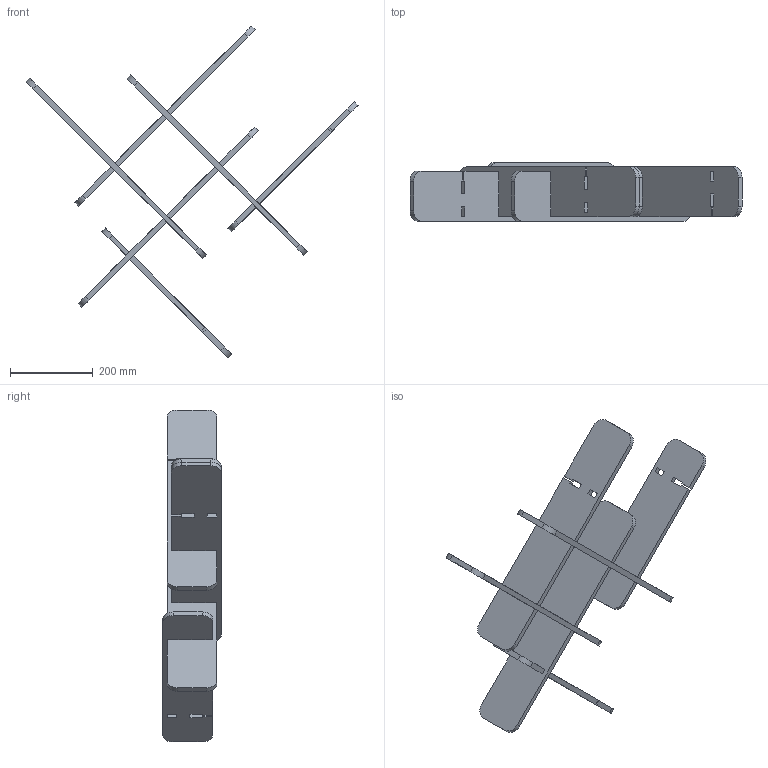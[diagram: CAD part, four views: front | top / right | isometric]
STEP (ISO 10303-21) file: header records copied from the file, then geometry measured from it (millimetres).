
FILE_DESCRIPTION(/* description */ (''),/* implementation_level */ '2;1');
FILE_NAME(/* name */ 'Y:\Design and Engineering\MaterialLogiq\CAD ASSETS\MASTER\GRAFFLE\WEB ASSETS\PET GRAFFLE_2x2_FLAT_ROUND.stp',/* time_stamp */ '2023-11-14T13:23:51-06:00',/* author */ ('Grant Baker'),/* organization */ (''),/* preprocessor_version */ 'ST-DEVELOPER v19',/* originating_system */ 'Autodesk Inventor 2023',/* authorisation */ '');
FILE_SCHEMA (('AUTOMOTIVE_DESIGN { 1 0 10303 214 3 1 1 }'));
Length unit declared in the file: inch
Products named in the file (4): PET GRAFFLE_2x2_FLAT_ROUND; PET GRAFFLE_2x2_A_FLAT_ROUND; PET GRAFFLE_2x2_B_FLAT_ROUND; PET GRAFFLE_2x2_LINK_FLAT_ROUND
Assembly tree (6 placements, depth 2):
  PET GRAFFLE_2x2_FLAT_ROUND
    PET GRAFFLE_2x2_LINK_FLAT_ROUND  x2
    PET GRAFFLE_2x2_A_FLAT_ROUND  x2
    PET GRAFFLE_2x2_B_FLAT_ROUND  x2
Bounding box: 801.35 x 141.48 x 801.35 mm (x, y, z)
Volume: 4632314.1 mm3; surface area: 892405.1 mm2
Topology: 6 solids, 6 shells, 252 faces, 720 edges, 480 vertices
Faces by surface type: plane 228, cylinder 24
Entity records: 4251 total; most frequent: CARTESIAN_POINT 736, ORIENTED_EDGE 720, DIRECTION 656, EDGE_CURVE 360, LINE 336, VECTOR 336, VERTEX_POINT 240, AXIS2_PLACEMENT_3D 160
